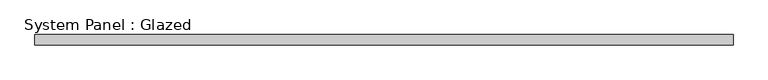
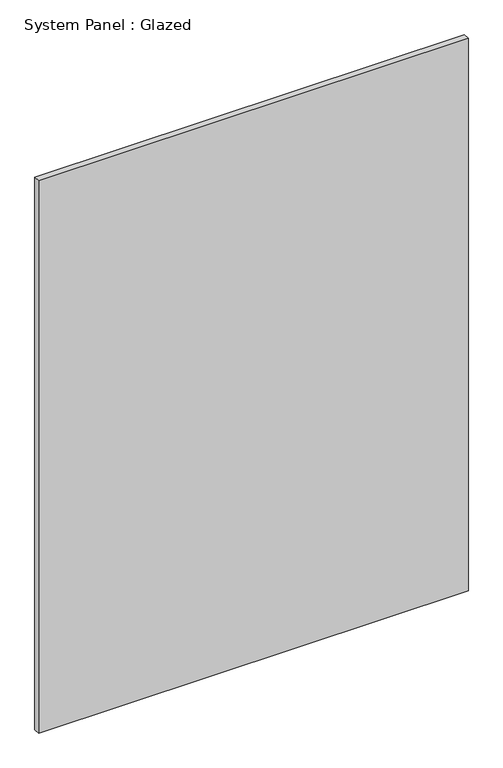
"""IFC4 building model written with IfcOpenShell, lengths in millimetres: plate geometry, System Panel : Glazed."""

from ifc_helpers import new_model, si_unit, origin, origin_with_axes, place, context, project, spatial, polyline, outline, extrude, source, transform, mapped, element, save


def system_panel_glazed_c847f2b6(model_context):
    return source(origin(), model_context, "Body", "SweptSolid", [
        extrude(outline(polyline([(874.7173453, 19.05), (-874.7173453, 19.05), (-874.7173453, 44.45), (874.7173453, 44.45), (874.7173453, 19.05)])), origin_with_axes(), (0.0, 0.0, 1.0), 2374.7638735),
    ])


if __name__ == "__main__":
    model = new_model("IFC4")
    model_context = context("Model", 3, world=origin())
    ifc_project = project(units=[si_unit("LENGTHUNIT", "METRE", prefix="MILLI")], contexts=[model_context])
    site = spatial("IfcSite", under=ifc_project)
    building = spatial("IfcBuilding", under=site)
    placement = place(None, origin())
    system_panel_glazed_shape = system_panel_glazed_c847f2b6(model_context)
    element("IfcPlate", 1, ObjectType="System Panel : Glazed", at=placement, inside=building, context=model_context, shape_type="MappedRepresentation", body=[
        mapped(system_panel_glazed_shape, transform((0.0, 0.0, 0.0), x_axis=(1.0, 0.0, 0.0), y_axis=(0.0, 1.0, 0.0), z_axis=(0.0, 0.0, 1.0))),
    ])
    save(model, "model.ifc")
